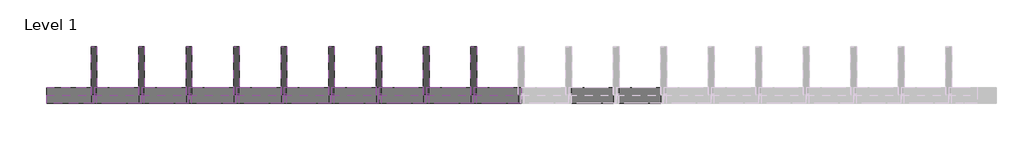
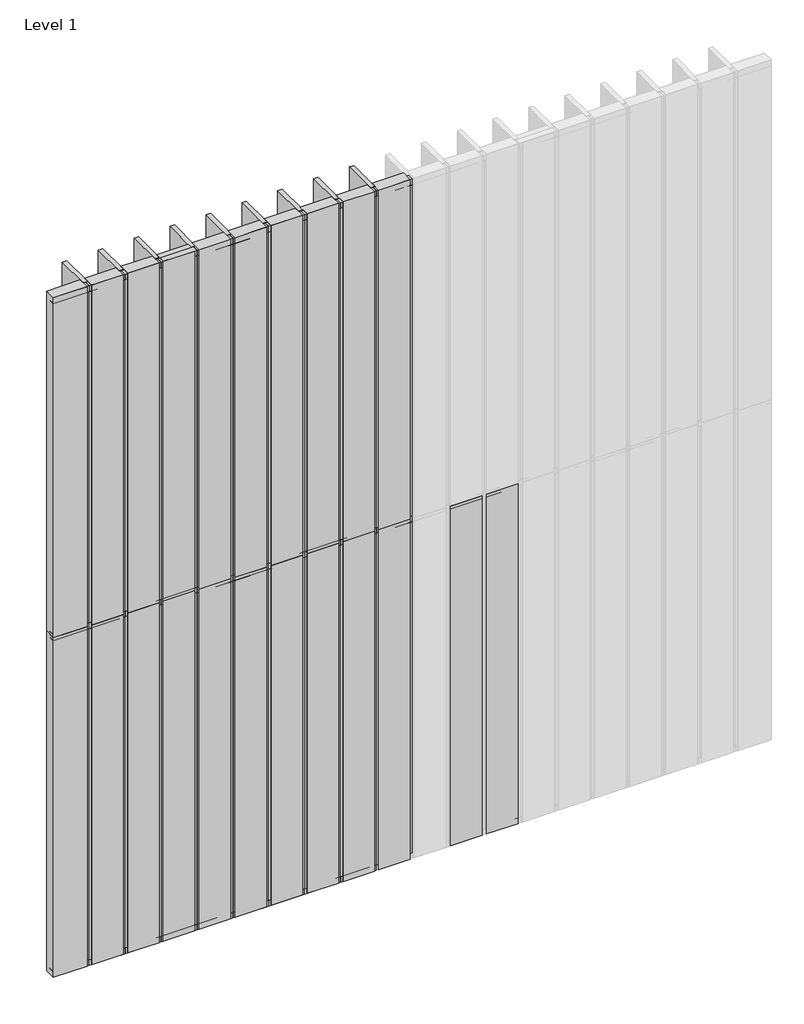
# One storey, part 1 of 2: 47 members, 42 plates.
"""IFC4 building model written with IfcOpenShell, lengths in millimetres."""

from ifc_helpers import new_model, si_unit, origin, place, context, project, spatial, transform, mapped, element, save
from components import rectangular_mullion_3524faa0, rectangular_mullion_bcb65166, rectangular_mullion_d9db7a7c, rectangular_mullion_906318ec, empty_system_panel_empty_ba3b3bea, empty_system_panel_empty_1e353cd9, empty_system_panel_empty_eacbfc0b

model = new_model("IFC4")

# Units and contexts
model_context = context("Model", 3, world=origin())
ifc_project = project(units=[si_unit("LENGTHUNIT", "METRE", prefix="MILLI")], contexts=[model_context])

# Site, building, storey
site = spatial("IfcSite", under=ifc_project)
building = spatial("IfcBuilding", under=site)
storey = spatial("IfcBuildingStorey", under=building, Name="Level 1", Elevation=0.0)

# Members
placement = place(None, origin())
rectangular_mullion_shape = rectangular_mullion_3524faa0(model_context)
element("IfcMember", 1, ObjectType="Rectangular Mullion : RSen_21_CWM_blade - cubic 300 - 0°_gen_duco projects", at=placement, inside=storey, context=model_context, shape_type="MappedRepresentation", body=[
    mapped(rectangular_mullion_shape, transform((2700.0, 3000.0, 0.0), x_axis=(-1.0, 0.0, 0.0), y_axis=(0.0, 1.0, 0.0), z_axis=(0.0, 0.0, -1.0))),
])
element("IfcMember", 2, ObjectType="Rectangular Mullion : RSen_21_CWM_blade - cubic 300 - 0°_gen_duco projects", at=placement, inside=storey, context=model_context, shape_type="MappedRepresentation", body=[
    mapped(rectangular_mullion_shape, transform((2400.0, 3000.0, 0.0), x_axis=(-1.0, 0.0, 0.0), y_axis=(0.0, 1.0, 0.0), z_axis=(0.0, 0.0, -1.0))),
])
element("IfcMember", 3, ObjectType="Rectangular Mullion : RSen_21_CWM_blade - cubic 300 - 0°_gen_duco projects", at=placement, inside=storey, context=model_context, shape_type="MappedRepresentation", body=[
    mapped(rectangular_mullion_shape, transform((2100.0, 3000.0, 0.0), x_axis=(-1.0, 0.0, 0.0), y_axis=(0.0, 1.0, 0.0), z_axis=(0.0, 0.0, -1.0))),
])
element("IfcMember", 4, ObjectType="Rectangular Mullion : RSen_21_CWM_blade - cubic 300 - 0°_gen_duco projects", at=placement, inside=storey, context=model_context, shape_type="MappedRepresentation", body=[
    mapped(rectangular_mullion_shape, transform((1800.0, 3000.0, 0.0), x_axis=(-1.0, 0.0, 0.0), y_axis=(0.0, 1.0, 0.0), z_axis=(0.0, 0.0, -1.0))),
])
element("IfcMember", 5, ObjectType="Rectangular Mullion : RSen_21_CWM_blade - cubic 300 - 0°_gen_duco projects", at=placement, inside=storey, context=model_context, shape_type="MappedRepresentation", body=[
    mapped(rectangular_mullion_shape, transform((1500.0, 3000.0, 0.0), x_axis=(-1.0, 0.0, 0.0), y_axis=(0.0, 1.0, 0.0), z_axis=(0.0, 0.0, -1.0))),
])
element("IfcMember", 6, ObjectType="Rectangular Mullion : RSen_21_CWM_blade - cubic 300 - 0°_gen_duco projects", at=placement, inside=storey, context=model_context, shape_type="MappedRepresentation", body=[
    mapped(rectangular_mullion_shape, transform((1200.0, 3000.0, 0.0), x_axis=(-1.0, 0.0, 0.0), y_axis=(0.0, 1.0, 0.0), z_axis=(0.0, 0.0, -1.0))),
])
element("IfcMember", 7, ObjectType="Rectangular Mullion : RSen_21_CWM_blade - cubic 300 - 0°_gen_duco projects", at=placement, inside=storey, context=model_context, shape_type="MappedRepresentation", body=[
    mapped(rectangular_mullion_shape, transform((900.0, 3000.0, 0.0), x_axis=(-1.0, 0.0, 0.0), y_axis=(0.0, 1.0, 0.0), z_axis=(0.0, 0.0, -1.0))),
])
element("IfcMember", 8, ObjectType="Rectangular Mullion : RSen_21_CWM_blade - cubic 300 - 0°_gen_duco projects", at=placement, inside=storey, context=model_context, shape_type="MappedRepresentation", body=[
    mapped(rectangular_mullion_shape, transform((600.0, 3000.0, 0.0), x_axis=(-1.0, 0.0, 0.0), y_axis=(0.0, 1.0, 0.0), z_axis=(0.0, 0.0, -1.0))),
])
element("IfcMember", 9, ObjectType="Rectangular Mullion : RSen_21_CWM_blade - cubic 300 - 0°_gen_duco projects", at=placement, inside=storey, context=model_context, shape_type="MappedRepresentation", body=[
    mapped(rectangular_mullion_shape, transform((300.0, 3000.0, 0.0), x_axis=(-1.0, 0.0, 0.0), y_axis=(0.0, 1.0, 0.0), z_axis=(0.0, 0.0, -1.0))),
])
element("IfcMember", 10, ObjectType="Rectangular Mullion : RSen_21_CWM_blade - cubic 300 - 0°_gen_duco projects", at=placement, inside=storey, context=model_context, shape_type="MappedRepresentation", body=[
    mapped(rectangular_mullion_shape, transform((2700.0, 3000.0, 3000.0), x_axis=(-1.0, 0.0, 0.0), y_axis=(0.0, 1.0, 0.0), z_axis=(0.0, 0.0, -1.0))),
])
element("IfcMember", 11, ObjectType="Rectangular Mullion : RSen_21_CWM_blade - cubic 300 - 0°_gen_duco projects", at=placement, inside=storey, context=model_context, shape_type="MappedRepresentation", body=[
    mapped(rectangular_mullion_shape, transform((2400.0, 3000.0, 3000.0), x_axis=(-1.0, 0.0, 0.0), y_axis=(0.0, 1.0, 0.0), z_axis=(0.0, 0.0, -1.0))),
])
element("IfcMember", 12, ObjectType="Rectangular Mullion : RSen_21_CWM_blade - cubic 300 - 0°_gen_duco projects", at=placement, inside=storey, context=model_context, shape_type="MappedRepresentation", body=[
    mapped(rectangular_mullion_shape, transform((2100.0, 3000.0, 3000.0), x_axis=(-1.0, 0.0, 0.0), y_axis=(0.0, 1.0, 0.0), z_axis=(0.0, 0.0, -1.0))),
])
element("IfcMember", 13, ObjectType="Rectangular Mullion : RSen_21_CWM_blade - cubic 300 - 0°_gen_duco projects", at=placement, inside=storey, context=model_context, shape_type="MappedRepresentation", body=[
    mapped(rectangular_mullion_shape, transform((1800.0, 3000.0, 3000.0), x_axis=(-1.0, 0.0, 0.0), y_axis=(0.0, 1.0, 0.0), z_axis=(0.0, 0.0, -1.0))),
])
element("IfcMember", 14, ObjectType="Rectangular Mullion : RSen_21_CWM_blade - cubic 300 - 0°_gen_duco projects", at=placement, inside=storey, context=model_context, shape_type="MappedRepresentation", body=[
    mapped(rectangular_mullion_shape, transform((1500.0, 3000.0, 3000.0), x_axis=(-1.0, 0.0, 0.0), y_axis=(0.0, 1.0, 0.0), z_axis=(0.0, 0.0, -1.0))),
])
element("IfcMember", 15, ObjectType="Rectangular Mullion : RSen_21_CWM_blade - cubic 300 - 0°_gen_duco projects", at=placement, inside=storey, context=model_context, shape_type="MappedRepresentation", body=[
    mapped(rectangular_mullion_shape, transform((1200.0, 3000.0, 3000.0), x_axis=(-1.0, 0.0, 0.0), y_axis=(0.0, 1.0, 0.0), z_axis=(0.0, 0.0, -1.0))),
])
element("IfcMember", 16, ObjectType="Rectangular Mullion : RSen_21_CWM_blade - cubic 300 - 0°_gen_duco projects", at=placement, inside=storey, context=model_context, shape_type="MappedRepresentation", body=[
    mapped(rectangular_mullion_shape, transform((900.0, 3000.0, 3000.0), x_axis=(-1.0, 0.0, 0.0), y_axis=(0.0, 1.0, 0.0), z_axis=(0.0, 0.0, -1.0))),
])
element("IfcMember", 17, ObjectType="Rectangular Mullion : RSen_21_CWM_blade - cubic 300 - 0°_gen_duco projects", at=placement, inside=storey, context=model_context, shape_type="MappedRepresentation", body=[
    mapped(rectangular_mullion_shape, transform((600.0, 3000.0, 3000.0), x_axis=(-1.0, 0.0, 0.0), y_axis=(0.0, 1.0, 0.0), z_axis=(0.0, 0.0, -1.0))),
])
element("IfcMember", 18, ObjectType="Rectangular Mullion : RSen_21_CWM_blade - cubic 300 - 0°_gen_duco projects", at=placement, inside=storey, context=model_context, shape_type="MappedRepresentation", body=[
    mapped(rectangular_mullion_shape, transform((300.0, 3000.0, 3000.0), x_axis=(-1.0, 0.0, 0.0), y_axis=(0.0, 1.0, 0.0), z_axis=(0.0, 0.0, -1.0))),
])
rectangular_mullion_2_shape = rectangular_mullion_bcb65166(model_context)
element("IfcMember", 19, ObjectType="Rectangular Mullion : RSen_21_CWM_support profile 50x50 - left_gen_duco projects", at=placement, inside=storey, context=model_context, shape_type="MappedRepresentation", body=[
    mapped(rectangular_mullion_2_shape, transform((0.0, 3000.0, 6000.0), x_axis=(0.0, 0.0, 1.0), y_axis=(0.0, 1.0, 0.0), z_axis=(-1.0, 0.0, 0.0))),
])
element("IfcMember", 20, ObjectType="Rectangular Mullion : RSen_21_CWM_support profile 50x50 - left_gen_duco projects", at=placement, inside=storey, context=model_context, shape_type="MappedRepresentation", body=[
    mapped(rectangular_mullion_2_shape, transform((2700.0, 3000.0, 6000.0), x_axis=(0.0, 0.0, 1.0), y_axis=(0.0, 1.0, 0.0), z_axis=(-1.0, 0.0, 0.0))),
])
element("IfcMember", 21, ObjectType="Rectangular Mullion : RSen_21_CWM_support profile 50x50 - left_gen_duco projects", at=placement, inside=storey, context=model_context, shape_type="MappedRepresentation", body=[
    mapped(rectangular_mullion_2_shape, transform((2400.0, 3000.0, 6000.0), x_axis=(0.0, 0.0, 1.0), y_axis=(0.0, 1.0, 0.0), z_axis=(-1.0, 0.0, 0.0))),
])
element("IfcMember", 22, ObjectType="Rectangular Mullion : RSen_21_CWM_support profile 50x50 - left_gen_duco projects", at=placement, inside=storey, context=model_context, shape_type="MappedRepresentation", body=[
    mapped(rectangular_mullion_2_shape, transform((2100.0, 3000.0, 6000.0), x_axis=(0.0, 0.0, 1.0), y_axis=(0.0, 1.0, 0.0), z_axis=(-1.0, 0.0, 0.0))),
])
element("IfcMember", 23, ObjectType="Rectangular Mullion : RSen_21_CWM_support profile 50x50 - left_gen_duco projects", at=placement, inside=storey, context=model_context, shape_type="MappedRepresentation", body=[
    mapped(rectangular_mullion_2_shape, transform((1800.0, 3000.0, 6000.0), x_axis=(0.0, 0.0, 1.0), y_axis=(0.0, 1.0, 0.0), z_axis=(-1.0, 0.0, 0.0))),
])
element("IfcMember", 24, ObjectType="Rectangular Mullion : RSen_21_CWM_support profile 50x50 - left_gen_duco projects", at=placement, inside=storey, context=model_context, shape_type="MappedRepresentation", body=[
    mapped(rectangular_mullion_2_shape, transform((1500.0, 3000.0, 6000.0), x_axis=(0.0, 0.0, 1.0), y_axis=(0.0, 1.0, 0.0), z_axis=(-1.0, 0.0, 0.0))),
])
element("IfcMember", 25, ObjectType="Rectangular Mullion : RSen_21_CWM_support profile 50x50 - left_gen_duco projects", at=placement, inside=storey, context=model_context, shape_type="MappedRepresentation", body=[
    mapped(rectangular_mullion_2_shape, transform((1200.0, 3000.0, 6000.0), x_axis=(0.0, 0.0, 1.0), y_axis=(0.0, 1.0, 0.0), z_axis=(-1.0, 0.0, 0.0))),
])
element("IfcMember", 26, ObjectType="Rectangular Mullion : RSen_21_CWM_support profile 50x50 - left_gen_duco projects", at=placement, inside=storey, context=model_context, shape_type="MappedRepresentation", body=[
    mapped(rectangular_mullion_2_shape, transform((900.0, 3000.0, 6000.0), x_axis=(0.0, 0.0, 1.0), y_axis=(0.0, 1.0, 0.0), z_axis=(-1.0, 0.0, 0.0))),
])
element("IfcMember", 27, ObjectType="Rectangular Mullion : RSen_21_CWM_support profile 50x50 - left_gen_duco projects", at=placement, inside=storey, context=model_context, shape_type="MappedRepresentation", body=[
    mapped(rectangular_mullion_2_shape, transform((600.0, 3000.0, 6000.0), x_axis=(0.0, 0.0, 1.0), y_axis=(0.0, 1.0, 0.0), z_axis=(-1.0, 0.0, 0.0))),
])
element("IfcMember", 28, ObjectType="Rectangular Mullion : RSen_21_CWM_support profile 50x50 - left_gen_duco projects", at=placement, inside=storey, context=model_context, shape_type="MappedRepresentation", body=[
    mapped(rectangular_mullion_2_shape, transform((300.0, 3000.0, 6000.0), x_axis=(0.0, 0.0, 1.0), y_axis=(0.0, 1.0, 0.0), z_axis=(-1.0, 0.0, 0.0))),
])
rectangular_mullion_3_shape = rectangular_mullion_d9db7a7c(model_context)
element("IfcMember", 29, ObjectType="Rectangular Mullion : RSen_21_CWM_support profile 50x50 - right_gen_duco projects", at=placement, inside=storey, context=model_context, shape_type="MappedRepresentation", body=[
    mapped(rectangular_mullion_3_shape, transform((2700.0, 3000.0, 0.0), x_axis=(0.0, 0.0, -1.0), y_axis=(0.0, 1.0, 0.0), z_axis=(1.0, 0.0, 0.0))),
])
element("IfcMember", 30, ObjectType="Rectangular Mullion : RSen_21_CWM_support profile 50x50 - right_gen_duco projects", at=placement, inside=storey, context=model_context, shape_type="MappedRepresentation", body=[
    mapped(rectangular_mullion_3_shape, transform((2400.0, 3000.0, 0.0), x_axis=(0.0, 0.0, -1.0), y_axis=(0.0, 1.0, 0.0), z_axis=(1.0, 0.0, 0.0))),
])
element("IfcMember", 31, ObjectType="Rectangular Mullion : RSen_21_CWM_support profile 50x50 - right_gen_duco projects", at=placement, inside=storey, context=model_context, shape_type="MappedRepresentation", body=[
    mapped(rectangular_mullion_3_shape, transform((2100.0, 3000.0, 0.0), x_axis=(0.0, 0.0, -1.0), y_axis=(0.0, 1.0, 0.0), z_axis=(1.0, 0.0, 0.0))),
])
element("IfcMember", 32, ObjectType="Rectangular Mullion : RSen_21_CWM_support profile 50x50 - right_gen_duco projects", at=placement, inside=storey, context=model_context, shape_type="MappedRepresentation", body=[
    mapped(rectangular_mullion_3_shape, transform((1800.0, 3000.0, 0.0), x_axis=(0.0, 0.0, -1.0), y_axis=(0.0, 1.0, 0.0), z_axis=(1.0, 0.0, 0.0))),
])
element("IfcMember", 33, ObjectType="Rectangular Mullion : RSen_21_CWM_support profile 50x50 - right_gen_duco projects", at=placement, inside=storey, context=model_context, shape_type="MappedRepresentation", body=[
    mapped(rectangular_mullion_3_shape, transform((1500.0, 3000.0, 0.0), x_axis=(0.0, 0.0, -1.0), y_axis=(0.0, 1.0, 0.0), z_axis=(1.0, 0.0, 0.0))),
])
element("IfcMember", 34, ObjectType="Rectangular Mullion : RSen_21_CWM_support profile 50x50 - right_gen_duco projects", at=placement, inside=storey, context=model_context, shape_type="MappedRepresentation", body=[
    mapped(rectangular_mullion_3_shape, transform((1200.0, 3000.0, 0.0), x_axis=(0.0, 0.0, -1.0), y_axis=(0.0, 1.0, 0.0), z_axis=(1.0, 0.0, 0.0))),
])
element("IfcMember", 35, ObjectType="Rectangular Mullion : RSen_21_CWM_support profile 50x50 - right_gen_duco projects", at=placement, inside=storey, context=model_context, shape_type="MappedRepresentation", body=[
    mapped(rectangular_mullion_3_shape, transform((900.0, 3000.0, 0.0), x_axis=(0.0, 0.0, -1.0), y_axis=(0.0, 1.0, 0.0), z_axis=(1.0, 0.0, 0.0))),
])
element("IfcMember", 36, ObjectType="Rectangular Mullion : RSen_21_CWM_support profile 50x50 - right_gen_duco projects", at=placement, inside=storey, context=model_context, shape_type="MappedRepresentation", body=[
    mapped(rectangular_mullion_3_shape, transform((600.0, 3000.0, 0.0), x_axis=(0.0, 0.0, -1.0), y_axis=(0.0, 1.0, 0.0), z_axis=(1.0, 0.0, 0.0))),
])
element("IfcMember", 37, ObjectType="Rectangular Mullion : RSen_21_CWM_support profile 50x50 - right_gen_duco projects", at=placement, inside=storey, context=model_context, shape_type="MappedRepresentation", body=[
    mapped(rectangular_mullion_3_shape, transform((300.0, 3000.0, 0.0), x_axis=(0.0, 0.0, -1.0), y_axis=(0.0, 1.0, 0.0), z_axis=(1.0, 0.0, 0.0))),
])
rectangular_mullion_4_shape = rectangular_mullion_906318ec(model_context)
element("IfcMember", 38, ObjectType="Rectangular Mullion : RSen_21_CWM_support profile 50x50_gen_duco projects", at=placement, inside=storey, context=model_context, shape_type="MappedRepresentation", body=[
    mapped(rectangular_mullion_4_shape, transform((2700.0, 3000.0, 3000.0), x_axis=(0.0, 0.0, 1.0), y_axis=(0.0, 1.0, 0.0), z_axis=(-1.0, 0.0, 0.0))),
])
element("IfcMember", 39, ObjectType="Rectangular Mullion : RSen_21_CWM_support profile 50x50_gen_duco projects", at=placement, inside=storey, context=model_context, shape_type="MappedRepresentation", body=[
    mapped(rectangular_mullion_4_shape, transform((2400.0, 3000.0, 3000.0), x_axis=(0.0, 0.0, 1.0), y_axis=(0.0, 1.0, 0.0), z_axis=(-1.0, 0.0, 0.0))),
])
element("IfcMember", 40, ObjectType="Rectangular Mullion : RSen_21_CWM_support profile 50x50_gen_duco projects", at=placement, inside=storey, context=model_context, shape_type="MappedRepresentation", body=[
    mapped(rectangular_mullion_4_shape, transform((2100.0, 3000.0, 3000.0), x_axis=(0.0, 0.0, 1.0), y_axis=(0.0, 1.0, 0.0), z_axis=(-1.0, 0.0, 0.0))),
])
element("IfcMember", 41, ObjectType="Rectangular Mullion : RSen_21_CWM_support profile 50x50_gen_duco projects", at=placement, inside=storey, context=model_context, shape_type="MappedRepresentation", body=[
    mapped(rectangular_mullion_4_shape, transform((1800.0, 3000.0, 3000.0), x_axis=(0.0, 0.0, 1.0), y_axis=(0.0, 1.0, 0.0), z_axis=(-1.0, 0.0, 0.0))),
])
element("IfcMember", 42, ObjectType="Rectangular Mullion : RSen_21_CWM_support profile 50x50_gen_duco projects", at=placement, inside=storey, context=model_context, shape_type="MappedRepresentation", body=[
    mapped(rectangular_mullion_4_shape, transform((1500.0, 3000.0, 3000.0), x_axis=(0.0, 0.0, 1.0), y_axis=(0.0, 1.0, 0.0), z_axis=(-1.0, 0.0, 0.0))),
])
element("IfcMember", 43, ObjectType="Rectangular Mullion : RSen_21_CWM_support profile 50x50_gen_duco projects", at=placement, inside=storey, context=model_context, shape_type="MappedRepresentation", body=[
    mapped(rectangular_mullion_4_shape, transform((1200.0, 3000.0, 3000.0), x_axis=(0.0, 0.0, 1.0), y_axis=(0.0, 1.0, 0.0), z_axis=(-1.0, 0.0, 0.0))),
])
element("IfcMember", 44, ObjectType="Rectangular Mullion : RSen_21_CWM_support profile 50x50_gen_duco projects", at=placement, inside=storey, context=model_context, shape_type="MappedRepresentation", body=[
    mapped(rectangular_mullion_4_shape, transform((900.0, 3000.0, 3000.0), x_axis=(0.0, 0.0, 1.0), y_axis=(0.0, 1.0, 0.0), z_axis=(-1.0, 0.0, 0.0))),
])
element("IfcMember", 45, ObjectType="Rectangular Mullion : RSen_21_CWM_support profile 50x50_gen_duco projects", at=placement, inside=storey, context=model_context, shape_type="MappedRepresentation", body=[
    mapped(rectangular_mullion_4_shape, transform((600.0, 3000.0, 3000.0), x_axis=(0.0, 0.0, 1.0), y_axis=(0.0, 1.0, 0.0), z_axis=(-1.0, 0.0, 0.0))),
])
element("IfcMember", 46, ObjectType="Rectangular Mullion : RSen_21_CWM_support profile 50x50_gen_duco projects", at=placement, inside=storey, context=model_context, shape_type="MappedRepresentation", body=[
    mapped(rectangular_mullion_4_shape, transform((300.0, 3000.0, 3000.0), x_axis=(0.0, 0.0, 1.0), y_axis=(0.0, 1.0, 0.0), z_axis=(-1.0, 0.0, 0.0))),
])
element("IfcMember", 47, ObjectType="Rectangular Mullion : RSen_21_CWM_support profile 50x50_gen_duco projects", at=placement, inside=storey, context=model_context, shape_type="MappedRepresentation", body=[
    mapped(rectangular_mullion_4_shape, transform((0.0, 3000.0, 3000.0), x_axis=(0.0, 0.0, 1.0), y_axis=(0.0, 1.0, 0.0), z_axis=(-1.0, 0.0, 0.0))),
])

# Plates
empty_system_panel_empty_shape = empty_system_panel_empty_ba3b3bea(model_context)
element("IfcPlate", 48, ObjectType="Empty System Panel : Empty", at=placement, inside=storey, context=model_context, shape_type="MappedRepresentation", body=[
    mapped(empty_system_panel_empty_shape, transform((140.75, 3000.0, 0.0), x_axis=(-1.0, 0.0, 0.0), y_axis=(0.0, -1.0, 0.0), z_axis=(0.0, 0.0, 1.0))),
])
element("IfcPlate", 49, ObjectType="Empty System Panel : Empty", at=placement, inside=storey, context=model_context, shape_type="MappedRepresentation", body=[
    mapped(empty_system_panel_empty_shape, transform((140.75, 3000.0, 3000.0), x_axis=(-1.0, 0.0, 0.0), y_axis=(0.0, -1.0, 0.0), z_axis=(0.0, 0.0, 1.0))),
])
empty_system_panel_empty_2_shape = empty_system_panel_empty_1e353cd9(model_context)
element("IfcPlate", 50, ObjectType="Empty System Panel : Empty", at=placement, inside=storey, context=model_context, shape_type="MappedRepresentation", body=[
    mapped(empty_system_panel_empty_2_shape, transform((3750.0, 3000.0, 0.0), x_axis=(-1.0, 0.0, 0.0), y_axis=(0.0, -1.0, 0.0), z_axis=(0.0, 0.0, 1.0))),
])
element("IfcPlate", 51, ObjectType="Empty System Panel : Empty", at=placement, inside=storey, context=model_context, shape_type="MappedRepresentation", body=[
    mapped(empty_system_panel_empty_2_shape, transform((3450.0, 3000.0, 0.0), x_axis=(-1.0, 0.0, 0.0), y_axis=(0.0, -1.0, 0.0), z_axis=(0.0, 0.0, 1.0))),
])
element("IfcPlate", 52, ObjectType="Empty System Panel : Empty", at=placement, inside=storey, context=model_context, shape_type="MappedRepresentation", body=[
    mapped(empty_system_panel_empty_2_shape, transform((2850.0, 3000.0, 0.0), x_axis=(-1.0, 0.0, 0.0), y_axis=(0.0, -1.0, 0.0), z_axis=(0.0, 0.0, 1.0))),
])
element("IfcPlate", 53, ObjectType="Empty System Panel : Empty", at=placement, inside=storey, context=model_context, shape_type="MappedRepresentation", body=[
    mapped(empty_system_panel_empty_2_shape, transform((2550.0, 3000.0, 0.0), x_axis=(-1.0, 0.0, 0.0), y_axis=(0.0, -1.0, 0.0), z_axis=(0.0, 0.0, 1.0))),
])
element("IfcPlate", 54, ObjectType="Empty System Panel : Empty", at=placement, inside=storey, context=model_context, shape_type="MappedRepresentation", body=[
    mapped(empty_system_panel_empty_2_shape, transform((2250.0, 3000.0, 0.0), x_axis=(-1.0, 0.0, 0.0), y_axis=(0.0, -1.0, 0.0), z_axis=(0.0, 0.0, 1.0))),
])
element("IfcPlate", 55, ObjectType="Empty System Panel : Empty", at=placement, inside=storey, context=model_context, shape_type="MappedRepresentation", body=[
    mapped(empty_system_panel_empty_2_shape, transform((1950.0, 3000.0, 0.0), x_axis=(-1.0, 0.0, 0.0), y_axis=(0.0, -1.0, 0.0), z_axis=(0.0, 0.0, 1.0))),
])
element("IfcPlate", 56, ObjectType="Empty System Panel : Empty", at=placement, inside=storey, context=model_context, shape_type="MappedRepresentation", body=[
    mapped(empty_system_panel_empty_2_shape, transform((1650.0, 3000.0, 0.0), x_axis=(-1.0, 0.0, 0.0), y_axis=(0.0, -1.0, 0.0), z_axis=(0.0, 0.0, 1.0))),
])
element("IfcPlate", 57, ObjectType="Empty System Panel : Empty", at=placement, inside=storey, context=model_context, shape_type="MappedRepresentation", body=[
    mapped(empty_system_panel_empty_2_shape, transform((1350.0, 3000.0, 0.0), x_axis=(-1.0, 0.0, 0.0), y_axis=(0.0, -1.0, 0.0), z_axis=(0.0, 0.0, 1.0))),
])
element("IfcPlate", 58, ObjectType="Empty System Panel : Empty", at=placement, inside=storey, context=model_context, shape_type="MappedRepresentation", body=[
    mapped(empty_system_panel_empty_2_shape, transform((1050.0, 3000.0, 0.0), x_axis=(-1.0, 0.0, 0.0), y_axis=(0.0, -1.0, 0.0), z_axis=(0.0, 0.0, 1.0))),
])
element("IfcPlate", 59, ObjectType="Empty System Panel : Empty", at=placement, inside=storey, context=model_context, shape_type="MappedRepresentation", body=[
    mapped(empty_system_panel_empty_2_shape, transform((750.0, 3000.0, 0.0), x_axis=(-1.0, 0.0, 0.0), y_axis=(0.0, -1.0, 0.0), z_axis=(0.0, 0.0, 1.0))),
])
element("IfcPlate", 60, ObjectType="Empty System Panel : Empty", at=placement, inside=storey, context=model_context, shape_type="MappedRepresentation", body=[
    mapped(empty_system_panel_empty_2_shape, transform((450.0, 3000.0, 0.0), x_axis=(-1.0, 0.0, 0.0), y_axis=(0.0, -1.0, 0.0), z_axis=(0.0, 0.0, 1.0))),
])
element("IfcPlate", 61, ObjectType="Empty System Panel : Empty", at=placement, inside=storey, context=model_context, shape_type="MappedRepresentation", body=[
    mapped(empty_system_panel_empty_2_shape, transform((2850.0, 3000.0, 3000.0), x_axis=(-1.0, 0.0, 0.0), y_axis=(0.0, -1.0, 0.0), z_axis=(0.0, 0.0, 1.0))),
])
element("IfcPlate", 62, ObjectType="Empty System Panel : Empty", at=placement, inside=storey, context=model_context, shape_type="MappedRepresentation", body=[
    mapped(empty_system_panel_empty_2_shape, transform((2550.0, 3000.0, 3000.0), x_axis=(-1.0, 0.0, 0.0), y_axis=(0.0, -1.0, 0.0), z_axis=(0.0, 0.0, 1.0))),
])
element("IfcPlate", 63, ObjectType="Empty System Panel : Empty", at=placement, inside=storey, context=model_context, shape_type="MappedRepresentation", body=[
    mapped(empty_system_panel_empty_2_shape, transform((2250.0, 3000.0, 3000.0), x_axis=(-1.0, 0.0, 0.0), y_axis=(0.0, -1.0, 0.0), z_axis=(0.0, 0.0, 1.0))),
])
element("IfcPlate", 64, ObjectType="Empty System Panel : Empty", at=placement, inside=storey, context=model_context, shape_type="MappedRepresentation", body=[
    mapped(empty_system_panel_empty_2_shape, transform((1950.0, 3000.0, 3000.0), x_axis=(-1.0, 0.0, 0.0), y_axis=(0.0, -1.0, 0.0), z_axis=(0.0, 0.0, 1.0))),
])
element("IfcPlate", 65, ObjectType="Empty System Panel : Empty", at=placement, inside=storey, context=model_context, shape_type="MappedRepresentation", body=[
    mapped(empty_system_panel_empty_2_shape, transform((1650.0, 3000.0, 3000.0), x_axis=(-1.0, 0.0, 0.0), y_axis=(0.0, -1.0, 0.0), z_axis=(0.0, 0.0, 1.0))),
])
element("IfcPlate", 66, ObjectType="Empty System Panel : Empty", at=placement, inside=storey, context=model_context, shape_type="MappedRepresentation", body=[
    mapped(empty_system_panel_empty_2_shape, transform((1350.0, 3000.0, 3000.0), x_axis=(-1.0, 0.0, 0.0), y_axis=(0.0, -1.0, 0.0), z_axis=(0.0, 0.0, 1.0))),
])
element("IfcPlate", 67, ObjectType="Empty System Panel : Empty", at=placement, inside=storey, context=model_context, shape_type="MappedRepresentation", body=[
    mapped(empty_system_panel_empty_2_shape, transform((1050.0, 3000.0, 3000.0), x_axis=(-1.0, 0.0, 0.0), y_axis=(0.0, -1.0, 0.0), z_axis=(0.0, 0.0, 1.0))),
])
element("IfcPlate", 68, ObjectType="Empty System Panel : Empty", at=placement, inside=storey, context=model_context, shape_type="MappedRepresentation", body=[
    mapped(empty_system_panel_empty_2_shape, transform((750.0, 3000.0, 3000.0), x_axis=(-1.0, 0.0, 0.0), y_axis=(0.0, -1.0, 0.0), z_axis=(0.0, 0.0, 1.0))),
])
element("IfcPlate", 69, ObjectType="Empty System Panel : Empty", at=placement, inside=storey, context=model_context, shape_type="MappedRepresentation", body=[
    mapped(empty_system_panel_empty_2_shape, transform((450.0, 3000.0, 3000.0), x_axis=(-1.0, 0.0, 0.0), y_axis=(0.0, -1.0, 0.0), z_axis=(0.0, 0.0, 1.0))),
])
empty_system_panel_empty_3_shape = empty_system_panel_empty_eacbfc0b(model_context)
element("IfcPlate", 70, ObjectType="Empty System Panel : Empty", at=placement, inside=storey, context=model_context, shape_type="MappedRepresentation", body=[
    mapped(empty_system_panel_empty_3_shape, transform((2850.0, 3000.0, 50.0), x_axis=(-1.0, 0.0, 0.0), y_axis=(0.0, -1.0, 0.0), z_axis=(0.0, 0.0, 1.0))),
])
element("IfcPlate", 71, ObjectType="Empty System Panel : Empty", at=placement, inside=storey, context=model_context, shape_type="MappedRepresentation", body=[
    mapped(empty_system_panel_empty_3_shape, transform((2550.0, 3000.0, 50.0), x_axis=(-1.0, 0.0, 0.0), y_axis=(0.0, -1.0, 0.0), z_axis=(0.0, 0.0, 1.0))),
])
element("IfcPlate", 72, ObjectType="Empty System Panel : Empty", at=placement, inside=storey, context=model_context, shape_type="MappedRepresentation", body=[
    mapped(empty_system_panel_empty_3_shape, transform((2250.0, 3000.0, 50.0), x_axis=(-1.0, 0.0, 0.0), y_axis=(0.0, -1.0, 0.0), z_axis=(0.0, 0.0, 1.0))),
])
element("IfcPlate", 73, ObjectType="Empty System Panel : Empty", at=placement, inside=storey, context=model_context, shape_type="MappedRepresentation", body=[
    mapped(empty_system_panel_empty_3_shape, transform((1950.0, 3000.0, 50.0), x_axis=(-1.0, 0.0, 0.0), y_axis=(0.0, -1.0, 0.0), z_axis=(0.0, 0.0, 1.0))),
])
element("IfcPlate", 74, ObjectType="Empty System Panel : Empty", at=placement, inside=storey, context=model_context, shape_type="MappedRepresentation", body=[
    mapped(empty_system_panel_empty_3_shape, transform((1650.0, 3000.0, 50.0), x_axis=(-1.0, 0.0, 0.0), y_axis=(0.0, -1.0, 0.0), z_axis=(0.0, 0.0, 1.0))),
])
element("IfcPlate", 75, ObjectType="Empty System Panel : Empty", at=placement, inside=storey, context=model_context, shape_type="MappedRepresentation", body=[
    mapped(empty_system_panel_empty_3_shape, transform((1350.0, 3000.0, 50.0), x_axis=(-1.0, 0.0, 0.0), y_axis=(0.0, -1.0, 0.0), z_axis=(0.0, 0.0, 1.0))),
])
element("IfcPlate", 76, ObjectType="Empty System Panel : Empty", at=placement, inside=storey, context=model_context, shape_type="MappedRepresentation", body=[
    mapped(empty_system_panel_empty_3_shape, transform((1050.0, 3000.0, 50.0), x_axis=(-1.0, 0.0, 0.0), y_axis=(0.0, -1.0, 0.0), z_axis=(0.0, 0.0, 1.0))),
])
element("IfcPlate", 77, ObjectType="Empty System Panel : Empty", at=placement, inside=storey, context=model_context, shape_type="MappedRepresentation", body=[
    mapped(empty_system_panel_empty_3_shape, transform((750.0, 3000.0, 50.0), x_axis=(-1.0, 0.0, 0.0), y_axis=(0.0, -1.0, 0.0), z_axis=(0.0, 0.0, 1.0))),
])
element("IfcPlate", 78, ObjectType="Empty System Panel : Empty", at=placement, inside=storey, context=model_context, shape_type="MappedRepresentation", body=[
    mapped(empty_system_panel_empty_3_shape, transform((450.0, 3000.0, 50.0), x_axis=(-1.0, 0.0, 0.0), y_axis=(0.0, -1.0, 0.0), z_axis=(0.0, 0.0, 1.0))),
])
element("IfcPlate", 79, ObjectType="Empty System Panel : Empty", at=placement, inside=storey, context=model_context, shape_type="MappedRepresentation", body=[
    mapped(empty_system_panel_empty_3_shape, transform((150.0, 3000.0, 50.0), x_axis=(-1.0, 0.0, 0.0), y_axis=(0.0, -1.0, 0.0), z_axis=(0.0, 0.0, 1.0))),
])
element("IfcPlate", 80, ObjectType="Empty System Panel : Empty", at=placement, inside=storey, context=model_context, shape_type="MappedRepresentation", body=[
    mapped(empty_system_panel_empty_3_shape, transform((2850.0, 3000.0, 3025.0), x_axis=(-1.0, 0.0, 0.0), y_axis=(0.0, -1.0, 0.0), z_axis=(0.0, 0.0, 1.0))),
])
element("IfcPlate", 81, ObjectType="Empty System Panel : Empty", at=placement, inside=storey, context=model_context, shape_type="MappedRepresentation", body=[
    mapped(empty_system_panel_empty_3_shape, transform((2550.0, 3000.0, 3025.0), x_axis=(-1.0, 0.0, 0.0), y_axis=(0.0, -1.0, 0.0), z_axis=(0.0, 0.0, 1.0))),
])
element("IfcPlate", 82, ObjectType="Empty System Panel : Empty", at=placement, inside=storey, context=model_context, shape_type="MappedRepresentation", body=[
    mapped(empty_system_panel_empty_3_shape, transform((2250.0, 3000.0, 3025.0), x_axis=(-1.0, 0.0, 0.0), y_axis=(0.0, -1.0, 0.0), z_axis=(0.0, 0.0, 1.0))),
])
element("IfcPlate", 83, ObjectType="Empty System Panel : Empty", at=placement, inside=storey, context=model_context, shape_type="MappedRepresentation", body=[
    mapped(empty_system_panel_empty_3_shape, transform((1950.0, 3000.0, 3025.0), x_axis=(-1.0, 0.0, 0.0), y_axis=(0.0, -1.0, 0.0), z_axis=(0.0, 0.0, 1.0))),
])
element("IfcPlate", 84, ObjectType="Empty System Panel : Empty", at=placement, inside=storey, context=model_context, shape_type="MappedRepresentation", body=[
    mapped(empty_system_panel_empty_3_shape, transform((1650.0, 3000.0, 3025.0), x_axis=(-1.0, 0.0, 0.0), y_axis=(0.0, -1.0, 0.0), z_axis=(0.0, 0.0, 1.0))),
])
element("IfcPlate", 85, ObjectType="Empty System Panel : Empty", at=placement, inside=storey, context=model_context, shape_type="MappedRepresentation", body=[
    mapped(empty_system_panel_empty_3_shape, transform((1350.0, 3000.0, 3025.0), x_axis=(-1.0, 0.0, 0.0), y_axis=(0.0, -1.0, 0.0), z_axis=(0.0, 0.0, 1.0))),
])
element("IfcPlate", 86, ObjectType="Empty System Panel : Empty", at=placement, inside=storey, context=model_context, shape_type="MappedRepresentation", body=[
    mapped(empty_system_panel_empty_3_shape, transform((1050.0, 3000.0, 3025.0), x_axis=(-1.0, 0.0, 0.0), y_axis=(0.0, -1.0, 0.0), z_axis=(0.0, 0.0, 1.0))),
])
element("IfcPlate", 87, ObjectType="Empty System Panel : Empty", at=placement, inside=storey, context=model_context, shape_type="MappedRepresentation", body=[
    mapped(empty_system_panel_empty_3_shape, transform((750.0, 3000.0, 3025.0), x_axis=(-1.0, 0.0, 0.0), y_axis=(0.0, -1.0, 0.0), z_axis=(0.0, 0.0, 1.0))),
])
element("IfcPlate", 88, ObjectType="Empty System Panel : Empty", at=placement, inside=storey, context=model_context, shape_type="MappedRepresentation", body=[
    mapped(empty_system_panel_empty_3_shape, transform((450.0, 3000.0, 3025.0), x_axis=(-1.0, 0.0, 0.0), y_axis=(0.0, -1.0, 0.0), z_axis=(0.0, 0.0, 1.0))),
])
element("IfcPlate", 89, ObjectType="Empty System Panel : Empty", at=placement, inside=storey, context=model_context, shape_type="MappedRepresentation", body=[
    mapped(empty_system_panel_empty_3_shape, transform((150.0, 3000.0, 3025.0), x_axis=(-1.0, 0.0, 0.0), y_axis=(0.0, -1.0, 0.0), z_axis=(0.0, 0.0, 1.0))),
])

save(model, "model.ifc")
